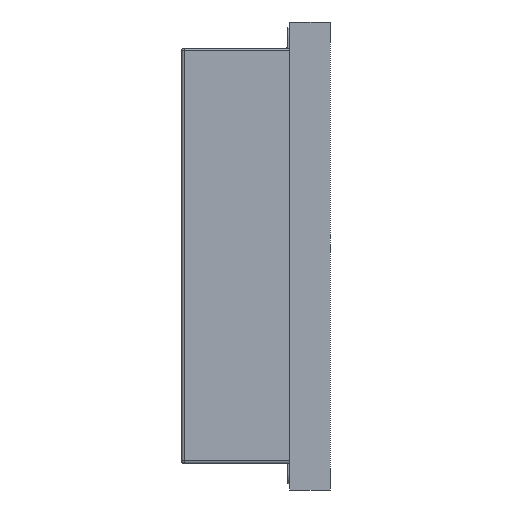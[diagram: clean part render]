
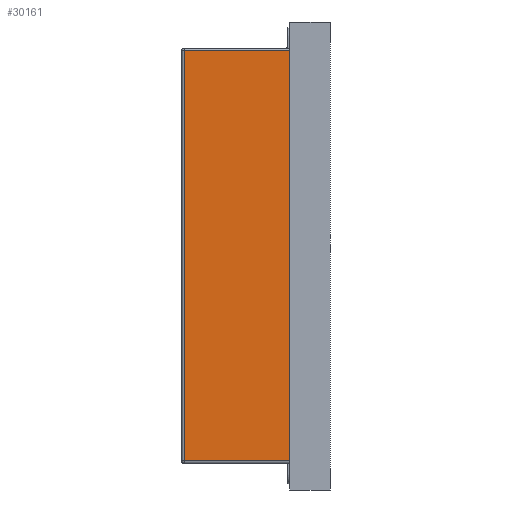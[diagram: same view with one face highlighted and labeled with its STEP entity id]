
A CAD part, left-side view. The second image highlights one B-rep face of the part: STEP entity #30161.
In plain terms, the highlighted planar face has unit normal (-1, 0, 0) as drawn and (0, 1, 0) by its records, which use the part's own axes.
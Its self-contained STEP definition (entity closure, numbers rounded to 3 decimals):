
#350 = VECTOR ( 'NONE', #19507, 1000. ) ;
#2089 = VERTEX_POINT ( 'NONE', #17688 ) ;
#4324 = PLANE ( 'NONE',  #14349 ) ;
#5335 = LINE ( 'NONE', #25325, #350 ) ;
#5625 = CARTESIAN_POINT ( 'NONE',  ( -404.006, 65.5, 1.2 ) ) ;
#5955 = ORIENTED_EDGE ( 'NONE', *, *, #22468, .F. ) ;
#6654 = DIRECTION ( 'NONE',  ( 0., 0., -1. ) ) ;
#8472 = EDGE_CURVE ( 'NONE', #2089, #36286, #10782, .T. ) ;
#8929 = VERTEX_POINT ( 'NONE', #31015 ) ;
#9017 = DIRECTION ( 'NONE',  ( -1., 0., 0. ) ) ;
#10752 = FACE_OUTER_BOUND ( 'NONE', #16333, .T. ) ;
#10782 = LINE ( 'NONE', #20446, #16276 ) ;
#11125 = LINE ( 'NONE', #5625, #27896 ) ;
#11612 = ORIENTED_EDGE ( 'NONE', *, *, #26220, .T. ) ;
#12486 = CARTESIAN_POINT ( 'NONE',  ( -100.8, 65.5, -69.091 ) ) ;
#12923 = ORIENTED_EDGE ( 'NONE', *, *, #27028, .F. ) ;
#13509 = LINE ( 'NONE', #12486, #19886 ) ;
#14349 = AXIS2_PLACEMENT_3D ( 'NONE', #30159, #32908, #33406 ) ;
#14516 = ORIENTED_EDGE ( 'NONE', *, *, #8472, .F. ) ;
#16276 = VECTOR ( 'NONE', #9017, 1000. ) ;
#16333 = EDGE_LOOP ( 'NONE', ( #12923, #5955, #14516, #11612 ) ) ;
#17688 = CARTESIAN_POINT ( 'NONE',  ( 100.8, 65.5, 53. ) ) ;
#19333 = VERTEX_POINT ( 'NONE', #23206 ) ;
#19507 = DIRECTION ( 'NONE',  ( 0., 0., -1. ) ) ;
#19886 = VECTOR ( 'NONE', #6654, 1000. ) ;
#20446 = CARTESIAN_POINT ( 'NONE',  ( 0., 65.5, 53. ) ) ;
#22468 = EDGE_CURVE ( 'NONE', #36286, #8929, #13509, .T. ) ;
#23095 = DIRECTION ( 'NONE',  ( 1., 0., 0. ) ) ;
#23206 = CARTESIAN_POINT ( 'NONE',  ( 100.8, 65.5, 1.2 ) ) ;
#25325 = CARTESIAN_POINT ( 'NONE',  ( 100.8, 65.5, 0. ) ) ;
#26220 = EDGE_CURVE ( 'NONE', #2089, #19333, #5335, .T. ) ;
#27028 = EDGE_CURVE ( 'NONE', #8929, #19333, #11125, .T. ) ;
#27896 = VECTOR ( 'NONE', #23095, 1000. ) ;
#30159 = CARTESIAN_POINT ( 'NONE',  ( 102., 65.5, 0. ) ) ;
#30161 = ADVANCED_FACE ( 'NONE', ( #10752 ), #4324, .T. ) ;
#31015 = CARTESIAN_POINT ( 'NONE',  ( -100.8, 65.5, 1.2 ) ) ;
#32908 = DIRECTION ( 'NONE',  ( 0., 1., 0. ) ) ;
#33406 = DIRECTION ( 'NONE',  ( 0., 0., 1. ) ) ;
#33737 = CARTESIAN_POINT ( 'NONE',  ( -100.8, 65.5, 53. ) ) ;
#36286 = VERTEX_POINT ( 'NONE', #33737 ) ;
